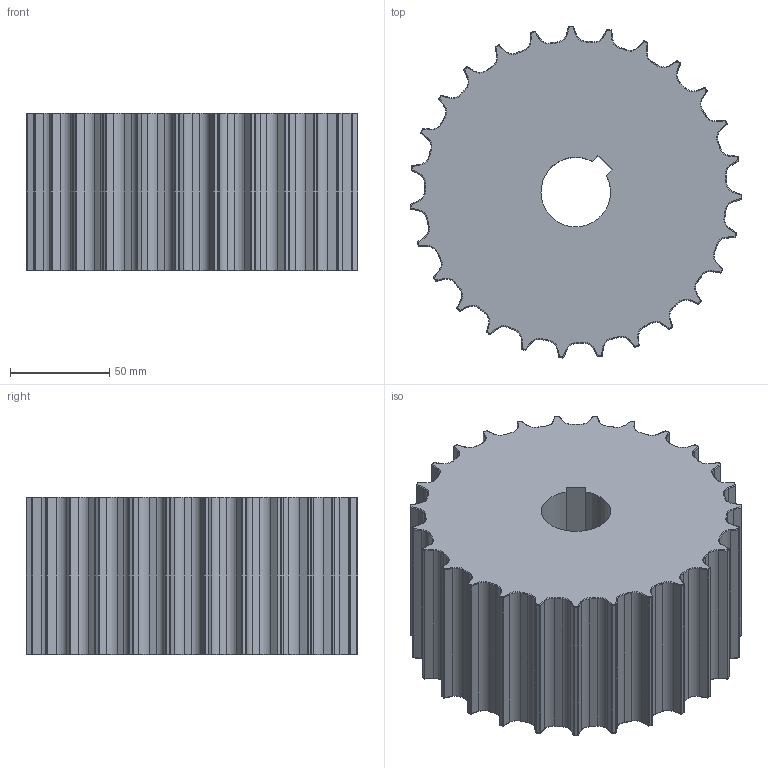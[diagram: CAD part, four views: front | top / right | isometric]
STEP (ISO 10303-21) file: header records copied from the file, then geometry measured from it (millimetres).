
FILE_DESCRIPTION((''),'2;1');
FILE_NAME('821_Z27','2015-12-18T',('bhe'),(''),'CREO PARAMETRIC BY PTC INC, 2015290','CREO PARAMETRIC BY PTC INC, 2015290','');
FILE_SCHEMA(('CONFIG_CONTROL_DESIGN'));
Length unit declared in the file: millimetre
Products named in the file (1): 821_Z27
Bounding box: 166.74 x 166.73 x 79.4 mm (x, y, z)
Volume: 1448202.7 mm3; surface area: 102928 mm2
Topology: 1 solids, 1 shells, 654 faces, 1416 edges, 764 vertices
Faces by surface type: cylinder 271, torus 216, sphere 108, plane 59
Entity records: 17696 total; most frequent: DIRECTION 3698, CARTESIAN_POINT 2834, ORIENTED_EDGE 2832, AXIS2_PLACEMENT_3D 1628, EDGE_CURVE 1416, CIRCLE 974, VERTEX_POINT 764, EDGE_LOOP 656
